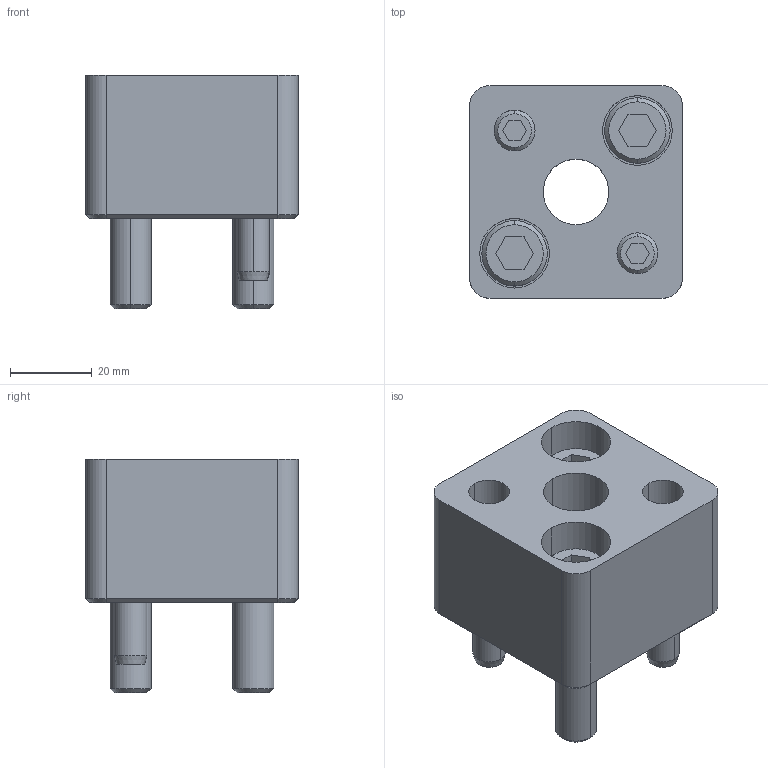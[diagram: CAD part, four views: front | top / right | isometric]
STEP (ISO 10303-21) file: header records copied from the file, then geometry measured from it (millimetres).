
FILE_DESCRIPTION(/* description */ (''),/* implementation_level */ '2;1');
FILE_NAME(/* name */ '3d_hasar16_04020_r00.stp',/* time_stamp */ '2011-01-10T14:14:56+09:00',/* author */ ('MISUMI'),/* organization */ (''),/* preprocessor_version */ 'ST-DEVELOPER v11',/* originating_system */ 'UGS - NX 5.0',/* authorisation */ '');
FILE_SCHEMA (('CONFIG_CONTROL_DESIGN'));
Length unit declared in the file: millimetre
Products named in the file (1): 3d_hasar16_04020_r00
Bounding box: 52 x 52 x 57 mm (x, y, z)
Volume: 83140 mm3; surface area: 25682.5 mm2
Topology: 7 solids, 7 shells, 143 faces, 310 edges, 196 vertices
Faces by surface type: plane 63, cylinder 50, cone 30
Entity records: 4026 total; most frequent: DIRECTION 718, CARTESIAN_POINT 704, ORIENTED_EDGE 620, EDGE_CURVE 310, AXIS2_PLACEMENT_3D 274, VERTEX_POINT 196, LINE 170, VECTOR 170
